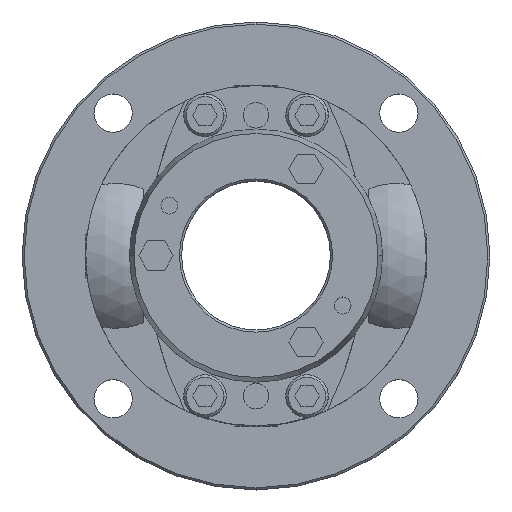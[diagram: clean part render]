
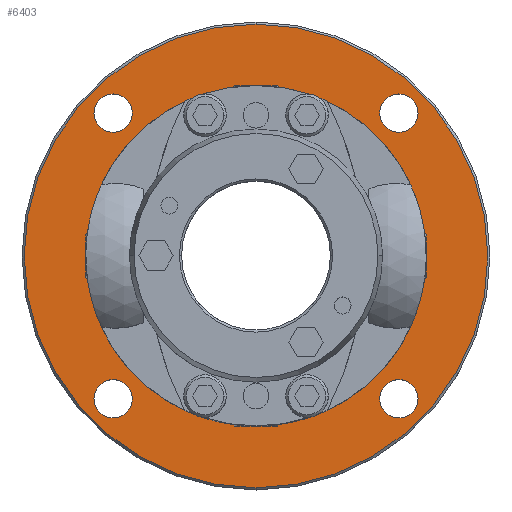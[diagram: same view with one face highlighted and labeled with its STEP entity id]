
A CAD part, top view. The second image highlights one B-rep face of the part: STEP entity #6403.
In plain terms, the highlighted planar face has unit normal (0, 0, 1).
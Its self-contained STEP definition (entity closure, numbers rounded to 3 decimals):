
#730=CARTESIAN_POINT('',(0.,-40.0,-16.0));
#731=VERTEX_POINT('',#730);
#847=CARTESIAN_POINT('',(0.,40.0,-16.0));
#848=VERTEX_POINT('',#847);
#855=CARTESIAN_POINT('',(0.0,0.0,-16.0));
#856=DIRECTION('',(0.0,0.0,-1.0));
#857=DIRECTION('',(0.0,1.0,0.0));
#858=AXIS2_PLACEMENT_3D('',#855,#856,#857);
#859=CIRCLE('',#858,40.0);
#860=EDGE_CURVE('',#731,#848,#859,.T.);
#1357=CARTESIAN_POINT('',(-33.588,38.088,-16.0));
#1358=VERTEX_POINT('',#1357);
#1367=CARTESIAN_POINT('',(-33.588,29.088,-16.0));
#1368=VERTEX_POINT('',#1367);
#1369=CARTESIAN_POINT('',(-33.588,33.588,-16.0));
#1370=DIRECTION('',(0.0,0.0,-1.0));
#1371=DIRECTION('',(0.0,1.0,0.0));
#1372=AXIS2_PLACEMENT_3D('',#1369,#1370,#1371);
#1373=CIRCLE('',#1372,4.5);
#1374=EDGE_CURVE('',#1368,#1358,#1373,.T.);
#1399=CARTESIAN_POINT('',(33.588,38.088,-16.0));
#1400=VERTEX_POINT('',#1399);
#1409=CARTESIAN_POINT('',(33.588,29.088,-16.0));
#1410=VERTEX_POINT('',#1409);
#1411=CARTESIAN_POINT('',(33.588,33.588,-16.0));
#1412=DIRECTION('',(0.0,0.0,-1.0));
#1413=DIRECTION('',(0.0,1.0,0.0));
#1414=AXIS2_PLACEMENT_3D('',#1411,#1412,#1413);
#1415=CIRCLE('',#1414,4.5);
#1416=EDGE_CURVE('',#1410,#1400,#1415,.T.);
#1441=CARTESIAN_POINT('',(33.588,-29.088,-16.0));
#1442=VERTEX_POINT('',#1441);
#1451=CARTESIAN_POINT('',(33.588,-38.088,-16.0));
#1452=VERTEX_POINT('',#1451);
#1453=CARTESIAN_POINT('',(33.588,-33.588,-16.0));
#1454=DIRECTION('',(0.0,0.0,-1.0));
#1455=DIRECTION('',(0.0,1.0,0.0));
#1456=AXIS2_PLACEMENT_3D('',#1453,#1454,#1455);
#1457=CIRCLE('',#1456,4.5);
#1458=EDGE_CURVE('',#1452,#1442,#1457,.T.);
#1483=CARTESIAN_POINT('',(-33.588,-29.088,-16.0));
#1484=VERTEX_POINT('',#1483);
#1493=CARTESIAN_POINT('',(-33.588,-38.088,-16.0));
#1494=VERTEX_POINT('',#1493);
#1495=CARTESIAN_POINT('',(-33.588,-33.588,-16.0));
#1496=DIRECTION('',(0.0,0.0,-1.0));
#1497=DIRECTION('',(0.0,1.0,0.0));
#1498=AXIS2_PLACEMENT_3D('',#1495,#1496,#1497);
#1499=CIRCLE('',#1498,4.5);
#1500=EDGE_CURVE('',#1494,#1484,#1499,.T.);
#2031=CARTESIAN_POINT('',(0.,-54.5,-16.0));
#2032=VERTEX_POINT('',#2031);
#2041=CARTESIAN_POINT('',(0.,54.5,-16.0));
#2042=VERTEX_POINT('',#2041);
#2043=CARTESIAN_POINT('',(0.0,0.0,-16.0));
#2044=DIRECTION('',(0.0,0.0,-1.0));
#2045=DIRECTION('',(0.0,-1.0,0.0));
#2046=AXIS2_PLACEMENT_3D('',#2043,#2044,#2045);
#2047=CIRCLE('',#2046,54.5);
#2048=EDGE_CURVE('',#2032,#2042,#2047,.T.);
#6334=CARTESIAN_POINT('',(0.0,0.0,-16.0));
#6335=DIRECTION('',(0.0,0.0,-1.0));
#6336=DIRECTION('',(0.0,-1.0,0.0));
#6337=AXIS2_PLACEMENT_3D('',#6334,#6335,#6336);
#6338=CIRCLE('',#6337,54.5);
#6339=EDGE_CURVE('',#2042,#2032,#6338,.T.);
#6344=CARTESIAN_POINT('',(0.,5.,-16.0));
#6345=DIRECTION('',(0.0,0.0,1.0));
#6346=DIRECTION('',(0.0,1.0,0.0));
#6347=AXIS2_PLACEMENT_3D('',#6344,#6345,#6346);
#6348=PLANE('',#6347);
#6349=ORIENTED_EDGE('',*,*,#6339,.F.);
#6350=ORIENTED_EDGE('',*,*,#2048,.F.);
#6351=EDGE_LOOP('',(#6349,#6350));
#6352=FACE_OUTER_BOUND('',#6351,.T.);
#6353=ORIENTED_EDGE('',*,*,#860,.T.);
#6354=CARTESIAN_POINT('',(0.0,0.0,-16.0));
#6355=DIRECTION('',(0.0,0.0,-1.0));
#6356=DIRECTION('',(0.0,1.0,0.0));
#6357=AXIS2_PLACEMENT_3D('',#6354,#6355,#6356);
#6358=CIRCLE('',#6357,40.0);
#6359=EDGE_CURVE('',#848,#731,#6358,.T.);
#6360=ORIENTED_EDGE('',*,*,#6359,.T.);
#6361=EDGE_LOOP('',(#6353,#6360));
#6362=FACE_BOUND('',#6361,.T.);
#6363=ORIENTED_EDGE('',*,*,#1374,.T.);
#6364=CARTESIAN_POINT('',(-33.588,33.588,-16.0));
#6365=DIRECTION('',(0.0,0.0,-1.0));
#6366=DIRECTION('',(0.0,1.0,0.0));
#6367=AXIS2_PLACEMENT_3D('',#6364,#6365,#6366);
#6368=CIRCLE('',#6367,4.5);
#6369=EDGE_CURVE('',#1358,#1368,#6368,.T.);
#6370=ORIENTED_EDGE('',*,*,#6369,.T.);
#6371=EDGE_LOOP('',(#6363,#6370));
#6372=FACE_BOUND('',#6371,.T.);
#6373=ORIENTED_EDGE('',*,*,#1416,.T.);
#6374=CARTESIAN_POINT('',(33.588,33.588,-16.0));
#6375=DIRECTION('',(0.0,0.0,-1.0));
#6376=DIRECTION('',(0.0,1.0,0.0));
#6377=AXIS2_PLACEMENT_3D('',#6374,#6375,#6376);
#6378=CIRCLE('',#6377,4.5);
#6379=EDGE_CURVE('',#1400,#1410,#6378,.T.);
#6380=ORIENTED_EDGE('',*,*,#6379,.T.);
#6381=EDGE_LOOP('',(#6373,#6380));
#6382=FACE_BOUND('',#6381,.T.);
#6383=ORIENTED_EDGE('',*,*,#1458,.T.);
#6384=CARTESIAN_POINT('',(33.588,-33.588,-16.0));
#6385=DIRECTION('',(0.0,0.0,-1.0));
#6386=DIRECTION('',(0.0,1.0,0.0));
#6387=AXIS2_PLACEMENT_3D('',#6384,#6385,#6386);
#6388=CIRCLE('',#6387,4.5);
#6389=EDGE_CURVE('',#1442,#1452,#6388,.T.);
#6390=ORIENTED_EDGE('',*,*,#6389,.T.);
#6391=EDGE_LOOP('',(#6383,#6390));
#6392=FACE_BOUND('',#6391,.T.);
#6393=ORIENTED_EDGE('',*,*,#1500,.T.);
#6394=CARTESIAN_POINT('',(-33.588,-33.588,-16.0));
#6395=DIRECTION('',(0.0,0.0,-1.0));
#6396=DIRECTION('',(0.0,1.0,0.0));
#6397=AXIS2_PLACEMENT_3D('',#6394,#6395,#6396);
#6398=CIRCLE('',#6397,4.5);
#6399=EDGE_CURVE('',#1484,#1494,#6398,.T.);
#6400=ORIENTED_EDGE('',*,*,#6399,.T.);
#6401=EDGE_LOOP('',(#6393,#6400));
#6402=FACE_BOUND('',#6401,.T.);
#6403=ADVANCED_FACE('',(#6352,#6362,#6372,#6382,#6392,#6402),#6348,.T.);
